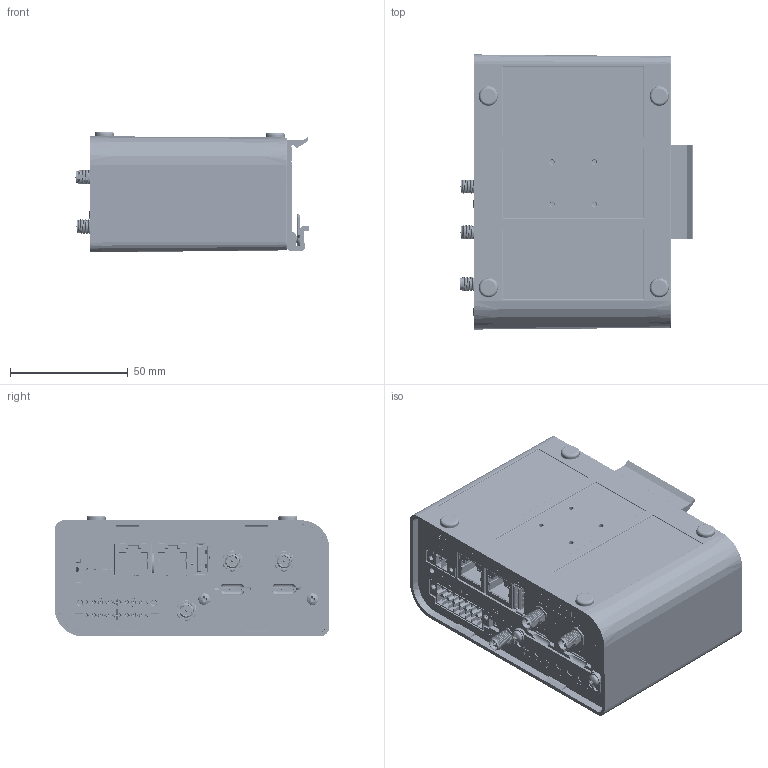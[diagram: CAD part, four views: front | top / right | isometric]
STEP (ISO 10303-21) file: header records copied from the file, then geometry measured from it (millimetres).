
FILE_DESCRIPTION (( 'STEP AP203' ), '1' );
FILE_NAME ('VMC-2021-28-1_Box ICR-2800 - plastic.STEP', '2021-10-20T09:36:36', ( '' ), ( '' ), 'SwSTEP 2.0', 'SolidWorks 2021', '' );
FILE_SCHEMA (( 'CONFIG_CONTROL_DESIGN' ));
Length unit declared in the file: millimetre
Products named in the file (22): VMC-2016-55-1-02_CKD-SBD40 kolik; DINKLE_0159-11XX_7; VMC-2021-08-1-02_ICR-2734 - SIM cover; DINKLE_0159-11XX_9; VMC-2016-55-1_CKD-SBD40 v2; VMC-2021-28-1-01_ICR-2800 - front part; dinkle_0159-1116; pan head cross recess screw_din_DIN EN ISO 7045 - M2.5 x 5 - Z - 5N; DINKLE_0159-11XX_6; ICR-2831_setava desek_upravená verze_v2-part; VMC-2016-55-1-03_CKD-SBD40 pero; VMC-2021-26-1-02_ICR-2700 LIBRATUM - Plastic box; DINKLE_0159-11XX_5; DINKLE_0159-11XX_3; plain washer 10673 type snl_iso_ISO 10673-2.75-S; DINKLE_0159-11XX; DINKLE_0159-11XX_4; DINKLE_0159-11XX_2; VMC-2021-28-1_Box ICR-2800 - plastic; DINKLE_0159-11XX_8; cross fh tapping 7976_din_Tapping screw DIN 7982-ST2.2x6.5-C-H-N; VMC-2016-55-1-01_CKD-SBD40 profil
Assembly tree (26 placements, depth 3):
  VMC-2021-28-1_Box ICR-2800 - plastic
    VMC-2021-28-1-01_ICR-2800 - front part
    VMC-2021-08-1-02_ICR-2734 - SIM cover
    VMC-2021-26-1-02_ICR-2700 LIBRATUM - Plastic box
    ICR-2831_setava desek_upravená verze_v2-part
    VMC-2016-55-1_CKD-SBD40 v2
      VMC-2016-55-1-01_CKD-SBD40 profil
      VMC-2016-55-1-02_CKD-SBD40 kolik
      VMC-2016-55-1-03_CKD-SBD40 pero
    pan head cross recess screw_din_DIN EN ISO 7045 - M2.5 x 5 - Z - 5N  x2
    plain washer 10673 type snl_iso_ISO 10673-2.75-S  x2
    cross fh tapping 7976_din_Tapping screw DIN 7982-ST2.2x6.5-C-H-N  x4
    dinkle_0159-1116
      DINKLE_0159-11XX_5
      DINKLE_0159-11XX_9
      DINKLE_0159-11XX_7
      DINKLE_0159-11XX_4
      DINKLE_0159-11XX_6
      DINKLE_0159-11XX_8
      DINKLE_0159-11XX
      DINKLE_0159-11XX_2
      DINKLE_0159-11XX_3
Bounding box: 99.16 x 116.96 x 51.44 mm (x, y, z)
Volume: 16203 mm3; surface area: 151414.5 mm2
Topology: 22 solids, 725 shells, 8096 faces, 31331 edges, 23554 vertices
Faces by surface type: plane 5271, cylinder 1638, bspline 837, cone 223, torus 105, sphere 22
Entity records: 403126 total; most frequent: CARTESIAN_POINT 154225, ORIENTED_EDGE 47937, DIRECTION 46105, EDGE_CURVE 30965, VERTEX_POINT 23355, VECTOR 21235, LINE 21235, AXIS2_PLACEMENT_3D 12435
